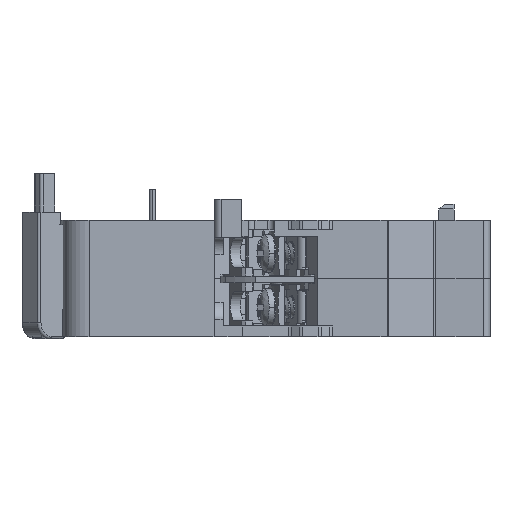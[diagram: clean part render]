
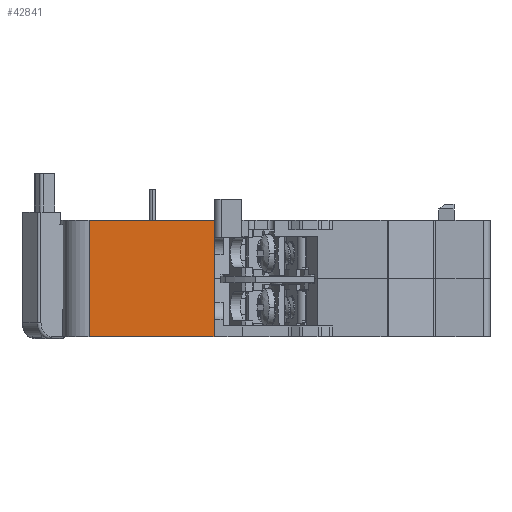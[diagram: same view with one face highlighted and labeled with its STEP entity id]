
A CAD part, left-side view. The second image highlights one B-rep face of the part: STEP entity #42841.
In plain terms, the highlighted planar face has unit normal (-1, 0, 0).
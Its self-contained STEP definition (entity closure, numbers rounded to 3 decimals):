
#35054=DIRECTION('',(0.,-1.,0.));
#35055=VECTOR('',#35054,19.33);
#35056=CARTESIAN_POINT('',(17.04,61.894,
-151.792));
#35057=LINE('',#35056,#35055);
#35378=DIRECTION('',(0.,0.,-1.));
#35379=VECTOR('',#35378,8.953);
#35380=CARTESIAN_POINT('',(17.04,42.564,
-151.792));
#35381=LINE('',#35380,#35379);
#36502=DIRECTION('',(0.,0.,1.));
#36503=VECTOR('',#36502,17.907);
#36504=CARTESIAN_POINT('',(17.04,61.894,
-169.699));
#36505=LINE('',#36504,#36503);
#36510=DIRECTION('',(0.,-1.,0.));
#36511=VECTOR('',#36510,19.24);
#36512=CARTESIAN_POINT('',(17.04,61.894,
-169.699));
#36513=LINE('',#36512,#36511);
#36600=DIRECTION('',(0.,1.,0.));
#36601=VECTOR('',#36600,0.09);
#36602=CARTESIAN_POINT('',(17.04,42.564,
-160.745));
#36603=LINE('',#36602,#36601);
#36855=DIRECTION('',(0.,0.,-1.));
#36856=VECTOR('',#36855,8.953);
#36857=CARTESIAN_POINT('',(17.04,42.654,
-160.745));
#36858=LINE('',#36857,#36856);
#39956=CARTESIAN_POINT('',(17.04,61.894,
-151.792));
#39957=VERTEX_POINT('',#39956);
#39958=CARTESIAN_POINT('',(17.04,42.564,
-151.792));
#39959=VERTEX_POINT('',#39958);
#40038=CARTESIAN_POINT('',(17.04,42.564,
-160.745));
#40039=VERTEX_POINT('',#40038);
#40040=CARTESIAN_POINT('',(17.04,42.654,
-160.745));
#40041=VERTEX_POINT('',#40040);
#40808=CARTESIAN_POINT('',(17.04,61.894,
-169.699));
#40809=VERTEX_POINT('',#40808);
#40810=CARTESIAN_POINT('',(17.04,42.654,
-169.699));
#40811=VERTEX_POINT('',#40810);
#42825=CARTESIAN_POINT('',(17.04,65.854,
-196.499));
#42826=DIRECTION('',(1.,0.,0.));
#42827=DIRECTION('',(0.,1.,0.));
#42828=AXIS2_PLACEMENT_3D('',#42825,#42826,#42827);
#42829=PLANE('',#42828);
#42830=ORIENTED_EDGE('',*,*,#41556,.T.);
#42831=ORIENTED_EDGE('',*,*,#41792,.T.);
#42833=ORIENTED_EDGE('',*,*,#42832,.T.);
#42835=ORIENTED_EDGE('',*,*,#42834,.T.);
#42837=ORIENTED_EDGE('',*,*,#42836,.F.);
#42838=ORIENTED_EDGE('',*,*,#42817,.T.);
#42839=EDGE_LOOP('',(#42830,#42831,#42833,#42835,#42837,#42838));
#42840=FACE_OUTER_BOUND('',#42839,.F.);
#42841=ADVANCED_FACE('',(#42840),#42829,.F.);
#41556=EDGE_CURVE('',#39957,#39959,#35057,.T.);
#41792=EDGE_CURVE('',#39959,#40039,#35381,.T.);
#42817=EDGE_CURVE('',#40809,#39957,#36505,.T.);
#42832=EDGE_CURVE('',#40039,#40041,#36603,.T.);
#42834=EDGE_CURVE('',#40041,#40811,#36858,.T.);
#42836=EDGE_CURVE('',#40809,#40811,#36513,.T.);
